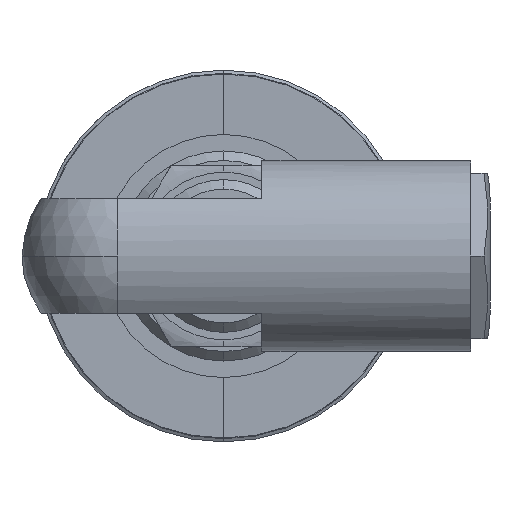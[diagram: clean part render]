
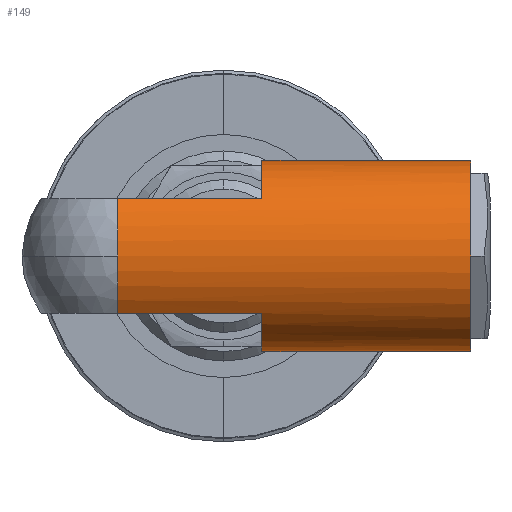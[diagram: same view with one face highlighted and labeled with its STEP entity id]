
A CAD part, left-side view. The second image highlights one B-rep face of the part: STEP entity #149.
In plain terms, the highlighted cylindrical face has radius 10 mm (diameter 20 mm), a partial arc.
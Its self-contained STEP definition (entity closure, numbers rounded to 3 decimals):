
#6 = DIRECTION ( 'NONE',  ( 0., 0., -1. ) ) ;
#17 = EDGE_CURVE ( 'NONE', #2886, #1743, #2590, .T. ) ;
#28 = CARTESIAN_POINT ( 'NONE',  ( -514., 21.119, 10. ) ) ;
#103 = DIRECTION ( 'NONE',  ( 0., 0., 1. ) ) ;
#106 = CARTESIAN_POINT ( 'NONE',  ( -519., -25.881, 8.66 ) ) ;
#110 = CARTESIAN_POINT ( 'NONE',  ( -522., 11.119, -6. ) ) ;
#149 = ADVANCED_FACE ( 'NONE', ( #657 ), #1408, .T. ) ;
#180 = VERTEX_POINT ( 'NONE', #106 ) ;
#209 = DIRECTION ( 'NONE',  ( 0., 1., 0. ) ) ;
#246 = CARTESIAN_POINT ( 'NONE',  ( -514., 11.119, 0. ) ) ;
#286 = DIRECTION ( 'NONE',  ( 0., 1., 0. ) ) ;
#301 = LINE ( 'NONE', #2988, #2297 ) ;
#351 = EDGE_CURVE ( 'NONE', #3177, #2294, #1153, .T. ) ;
#390 = CARTESIAN_POINT ( 'NONE',  ( -514., -4., -10. ) ) ;
#427 = DIRECTION ( 'NONE',  ( 0., -1., 0. ) ) ;
#493 = ORIENTED_EDGE ( 'NONE', *, *, #1053, .F. ) ;
#503 = EDGE_CURVE ( 'NONE', #1582, #1028, #2201, .T. ) ;
#527 = ORIENTED_EDGE ( 'NONE', *, *, #1677, .F. ) ;
#532 = CARTESIAN_POINT ( 'NONE',  ( -514., -25.881, 0. ) ) ;
#580 = DIRECTION ( 'NONE',  ( 0., 1., 0. ) ) ;
#593 = EDGE_LOOP ( 'NONE', ( #527, #1316, #1688, #2451, #493, #2701, #866, #665, #2835, #2028, #1135, #2342 ) ) ;
#636 = CARTESIAN_POINT ( 'NONE',  ( -524., 11.119, 0. ) ) ;
#648 = AXIS2_PLACEMENT_3D ( 'NONE', #967, #1704, #1938 ) ;
#657 = FACE_OUTER_BOUND ( 'NONE', #593, .T. ) ;
#664 = CARTESIAN_POINT ( 'NONE',  ( -514., -25.881, 0. ) ) ;
#665 = ORIENTED_EDGE ( 'NONE', *, *, #2983, .F. ) ;
#669 = CIRCLE ( 'NONE', #1418, 10. ) ;
#740 = CIRCLE ( 'NONE', #2709, 10. ) ;
#750 = CARTESIAN_POINT ( 'NONE',  ( -522., -4., -6. ) ) ;
#762 = VERTEX_POINT ( 'NONE', #2582 ) ;
#833 = VERTEX_POINT ( 'NONE', #390 ) ;
#866 = ORIENTED_EDGE ( 'NONE', *, *, #2836, .F. ) ;
#894 = VECTOR ( 'NONE', #1218, 1000. ) ;
#962 = EDGE_CURVE ( 'NONE', #833, #1044, #3124, .T. ) ;
#967 = CARTESIAN_POINT ( 'NONE',  ( -514., -25.881, 0. ) ) ;
#1026 = CARTESIAN_POINT ( 'NONE',  ( -514., -25.881, 10. ) ) ;
#1028 = VERTEX_POINT ( 'NONE', #1973 ) ;
#1044 = VERTEX_POINT ( 'NONE', #750 ) ;
#1051 = VECTOR ( 'NONE', #1689, 1000. ) ;
#1053 = EDGE_CURVE ( 'NONE', #1582, #180, #740, .T. ) ;
#1059 = VERTEX_POINT ( 'NONE', #2459 ) ;
#1067 = EDGE_CURVE ( 'NONE', #1743, #762, #1863, .T. ) ;
#1104 = EDGE_CURVE ( 'NONE', #180, #3177, #1526, .T. ) ;
#1135 = ORIENTED_EDGE ( 'NONE', *, *, #2946, .F. ) ;
#1142 = DIRECTION ( 'NONE',  ( 0., -1., 0. ) ) ;
#1153 = CIRCLE ( 'NONE', #1401, 10. ) ;
#1161 = AXIS2_PLACEMENT_3D ( 'NONE', #2276, #580, #103 ) ;
#1188 = DIRECTION ( 'NONE',  ( 0., 0., 1. ) ) ;
#1202 = CARTESIAN_POINT ( 'NONE',  ( -522., 21.119, 6. ) ) ;
#1216 = VERTEX_POINT ( 'NONE', #2037 ) ;
#1218 = DIRECTION ( 'NONE',  ( 0., 1., 0. ) ) ;
#1303 = DIRECTION ( 'NONE',  ( 0., 0., 1. ) ) ;
#1316 = ORIENTED_EDGE ( 'NONE', *, *, #2488, .F. ) ;
#1385 = DIRECTION ( 'NONE',  ( 0., 0., -1. ) ) ;
#1394 = CARTESIAN_POINT ( 'NONE',  ( -514., -25.881, 0. ) ) ;
#1401 = AXIS2_PLACEMENT_3D ( 'NONE', #1394, #1142, #1385 ) ;
#1408 = CYLINDRICAL_SURFACE ( 'NONE', #2679, 10. ) ;
#1418 = AXIS2_PLACEMENT_3D ( 'NONE', #664, #427, #2550 ) ;
#1521 = DIRECTION ( 'NONE',  ( 0., 1., 0. ) ) ;
#1526 = CIRCLE ( 'NONE', #648, 10. ) ;
#1534 = LINE ( 'NONE', #1916, #894 ) ;
#1582 = VERTEX_POINT ( 'NONE', #1026 ) ;
#1655 = DIRECTION ( 'NONE',  ( 0., 1., 0. ) ) ;
#1677 = EDGE_CURVE ( 'NONE', #1059, #833, #301, .T. ) ;
#1688 = ORIENTED_EDGE ( 'NONE', *, *, #351, .F. ) ;
#1689 = DIRECTION ( 'NONE',  ( 0., -1., 0. ) ) ;
#1704 = DIRECTION ( 'NONE',  ( 0., -1., 0. ) ) ;
#1732 = DIRECTION ( 'NONE',  ( 0., 0., 1. ) ) ;
#1743 = VERTEX_POINT ( 'NONE', #636 ) ;
#1822 = AXIS2_PLACEMENT_3D ( 'NONE', #3110, #209, #1188 ) ;
#1837 = CIRCLE ( 'NONE', #1161, 10. ) ;
#1863 = CIRCLE ( 'NONE', #2975, 10. ) ;
#1916 = CARTESIAN_POINT ( 'NONE',  ( -522., 21.119, -6. ) ) ;
#1938 = DIRECTION ( 'NONE',  ( 0., 0., -1. ) ) ;
#1973 = CARTESIAN_POINT ( 'NONE',  ( -514., -4., 10. ) ) ;
#2028 = ORIENTED_EDGE ( 'NONE', *, *, #17, .F. ) ;
#2037 = CARTESIAN_POINT ( 'NONE',  ( -522., -4., 6. ) ) ;
#2184 = DIRECTION ( 'NONE',  ( 0., 1., 0. ) ) ;
#2201 = LINE ( 'NONE', #28, #2204 ) ;
#2204 = VECTOR ( 'NONE', #286, 1000. ) ;
#2224 = CARTESIAN_POINT ( 'NONE',  ( -524., -25.881, 0. ) ) ;
#2261 = DIRECTION ( 'NONE',  ( 0., 1., 0. ) ) ;
#2276 = CARTESIAN_POINT ( 'NONE',  ( -514., -4., 0. ) ) ;
#2294 = VERTEX_POINT ( 'NONE', #2673 ) ;
#2297 = VECTOR ( 'NONE', #1521, 1000. ) ;
#2334 = AXIS2_PLACEMENT_3D ( 'NONE', #2345, #1655, #2594 ) ;
#2342 = ORIENTED_EDGE ( 'NONE', *, *, #962, .F. ) ;
#2345 = CARTESIAN_POINT ( 'NONE',  ( -514., 11.119, 0. ) ) ;
#2432 = DIRECTION ( 'NONE',  ( 0., -1., 0. ) ) ;
#2451 = ORIENTED_EDGE ( 'NONE', *, *, #1104, .F. ) ;
#2459 = CARTESIAN_POINT ( 'NONE',  ( -514., -25.881, -10. ) ) ;
#2488 = EDGE_CURVE ( 'NONE', #2294, #1059, #669, .T. ) ;
#2509 = CARTESIAN_POINT ( 'NONE',  ( -514., 21.119, 0. ) ) ;
#2550 = DIRECTION ( 'NONE',  ( 0., 0., -1. ) ) ;
#2582 = CARTESIAN_POINT ( 'NONE',  ( -522., 11.119, 6. ) ) ;
#2590 = CIRCLE ( 'NONE', #2334, 10. ) ;
#2594 = DIRECTION ( 'NONE',  ( 0., 0., 1. ) ) ;
#2673 = CARTESIAN_POINT ( 'NONE',  ( -519., -25.881, -8.66 ) ) ;
#2679 = AXIS2_PLACEMENT_3D ( 'NONE', #2509, #2261, #1303 ) ;
#2701 = ORIENTED_EDGE ( 'NONE', *, *, #503, .T. ) ;
#2709 = AXIS2_PLACEMENT_3D ( 'NONE', #532, #2432, #6 ) ;
#2757 = LINE ( 'NONE', #1202, #1051 ) ;
#2835 = ORIENTED_EDGE ( 'NONE', *, *, #1067, .F. ) ;
#2836 = EDGE_CURVE ( 'NONE', #1216, #1028, #1837, .T. ) ;
#2886 = VERTEX_POINT ( 'NONE', #110 ) ;
#2946 = EDGE_CURVE ( 'NONE', #1044, #2886, #1534, .T. ) ;
#2975 = AXIS2_PLACEMENT_3D ( 'NONE', #246, #2184, #1732 ) ;
#2983 = EDGE_CURVE ( 'NONE', #762, #1216, #2757, .T. ) ;
#2988 = CARTESIAN_POINT ( 'NONE',  ( -514., 21.119, -10. ) ) ;
#3110 = CARTESIAN_POINT ( 'NONE',  ( -514., -4., 0. ) ) ;
#3124 = CIRCLE ( 'NONE', #1822, 10. ) ;
#3177 = VERTEX_POINT ( 'NONE', #2224 ) ;
